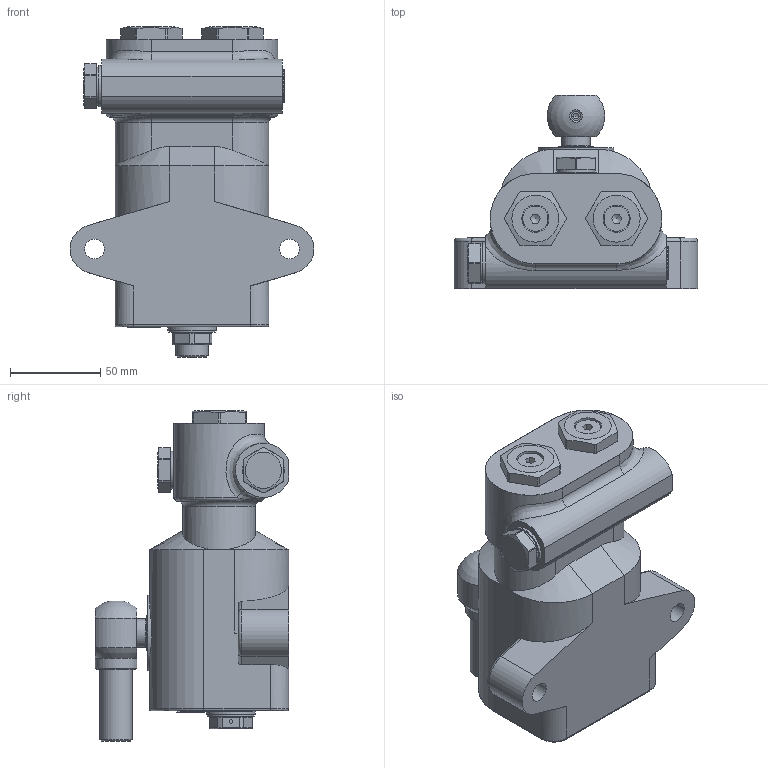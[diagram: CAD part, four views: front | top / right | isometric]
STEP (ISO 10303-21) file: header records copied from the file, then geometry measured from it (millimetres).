
FILE_DESCRIPTION((''),'2;1');
FILE_NAME('G:\HV_HYDRAULIC\AZIENDA_HV_HYDRAULIC\ARCHIVIO_DISEGNI\5_PRODOTTI_FINITI\1_POMPE_MANUALI\6093_PM2P_17\6093.0001_PM2P_17_e_(HV)\6093.0001.stp','2024-04-02T12:09:26',('christian.scardovi'),(''),'Autodesk Inventor 2013','Autodesk Inventor 2013','');
FILE_SCHEMA(('AUTOMOTIVE_DESIGN { 1 0 10303 214 1 1 1 1 }'));
Length unit declared in the file: millimetre
Products named in the file (1): 6093.0001
Bounding box: 134.9 x 107 x 183.1 mm (x, y, z)
Volume: 612250.6 mm3; surface area: 133652.2 mm2
Topology: 2 solids, 2 shells, 2085 faces, 5705 edges, 3732 vertices
Faces by surface type: cylinder 863, plane 562, cone 359, bspline 211, torus 81, sphere 9
Full cylindrical faces by diameter (mm): 2 x1, 4.917 x2, 5 x9, 6 x2, 6.5 x1, 8 x2, 8.917 x2, 10 x7, 11 x2, 13.5 x1, 14 x2, 14.95 x3, 15 x2, 16 x4, 18 x2, 20 x8, 20.5 x2, 21 x2, 23 x5, 25 x4, 26 x1, 26.376 x2, 27 x1, 30 x2, 32 x3, 42 x1
Entity records: 72579 total; most frequent: CARTESIAN_POINT 19856, ORIENTED_EDGE 10916, DIRECTION 10076, EDGE_CURVE 5458, AXIS2_PLACEMENT_3D 3958, VERTEX_POINT 3648, EDGE_LOOP 2374, VECTOR 2160
